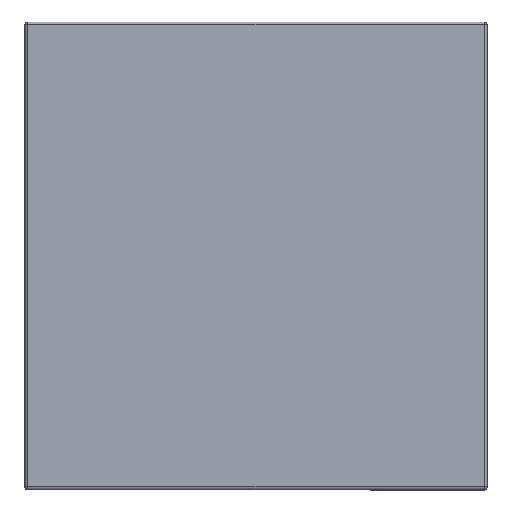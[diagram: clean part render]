
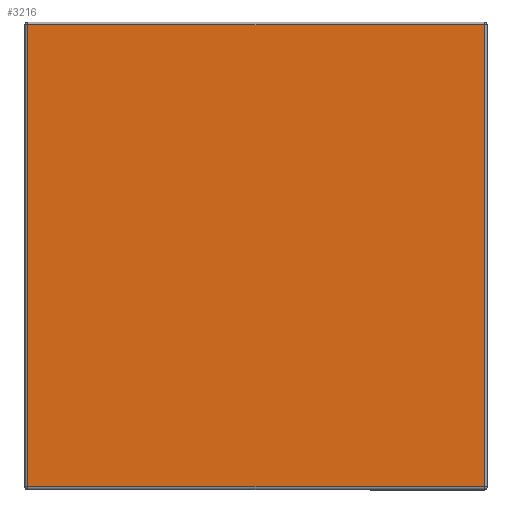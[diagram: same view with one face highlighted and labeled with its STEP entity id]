
A CAD part, top view. The second image highlights one B-rep face of the part: STEP entity #3216.
In plain terms, the highlighted planar face has unit normal (0, 0, 1).
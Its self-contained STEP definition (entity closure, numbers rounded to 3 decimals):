
#13 = CARTESIAN_POINT ( 'NONE',  ( 2262.642, -656.606, 0. ) ) ;
#104 = LINE ( 'NONE', #2588, #4688 ) ;
#166 = DIRECTION ( 'NONE',  ( -1., 0., 0. ) ) ;
#217 = CARTESIAN_POINT ( 'NONE',  ( 2262.642, -615.106, 0. ) ) ;
#590 = ORIENTED_EDGE ( 'NONE', *, *, #1232, .F. ) ;
#660 = VERTEX_POINT ( 'NONE', #217 ) ;
#692 = FACE_OUTER_BOUND ( 'NONE', #2249, .T. ) ;
#879 = LINE ( 'NONE', #1417, #5667 ) ;
#900 = VERTEX_POINT ( 'NONE', #13 ) ;
#1232 = EDGE_CURVE ( 'NONE', #900, #660, #104, .T. ) ;
#1294 = EDGE_CURVE ( 'NONE', #2108, #900, #879, .T. ) ;
#1417 = CARTESIAN_POINT ( 'NONE',  ( 2283.142, -656.606, 0. ) ) ;
#1509 = LINE ( 'NONE', #4512, #2203 ) ;
#1547 = CARTESIAN_POINT ( 'NONE',  ( 2303.642, -615.106, 0. ) ) ;
#1737 = CARTESIAN_POINT ( 'NONE',  ( 2303.642, -656.606, 0. ) ) ;
#2068 = ORIENTED_EDGE ( 'NONE', *, *, #1294, .F. ) ;
#2108 = VERTEX_POINT ( 'NONE', #1737 ) ;
#2203 = VECTOR ( 'NONE', #5697, 1000. ) ;
#2249 = EDGE_LOOP ( 'NONE', ( #3272, #5399, #590, #2068 ) ) ;
#2291 = VECTOR ( 'NONE', #2913, 1000. ) ;
#2326 = PLANE ( 'NONE',  #7082 ) ;
#2526 = DIRECTION ( 'NONE',  ( -1., 0., 0. ) ) ;
#2588 = CARTESIAN_POINT ( 'NONE',  ( 2262.642, -635.856, 0. ) ) ;
#2886 = CARTESIAN_POINT ( 'NONE',  ( 2283.142, -615.106, 0. ) ) ;
#2913 = DIRECTION ( 'NONE',  ( 1., 0., 0. ) ) ;
#3060 = DIRECTION ( 'NONE',  ( 0., 1., 0. ) ) ;
#3216 = ADVANCED_FACE ( 'NONE', ( #692 ), #2326, .F. ) ;
#3272 = ORIENTED_EDGE ( 'NONE', *, *, #5232, .F. ) ;
#4512 = CARTESIAN_POINT ( 'NONE',  ( 2303.642, -635.856, 0. ) ) ;
#4688 = VECTOR ( 'NONE', #3060, 1000. ) ;
#5232 = EDGE_CURVE ( 'NONE', #5356, #2108, #1509, .T. ) ;
#5356 = VERTEX_POINT ( 'NONE', #1547 ) ;
#5399 = ORIENTED_EDGE ( 'NONE', *, *, #5681, .F. ) ;
#5667 = VECTOR ( 'NONE', #2526, 1000. ) ;
#5681 = EDGE_CURVE ( 'NONE', #660, #5356, #6654, .T. ) ;
#5697 = DIRECTION ( 'NONE',  ( 0., -1., 0. ) ) ;
#6180 = CARTESIAN_POINT ( 'NONE',  ( 2283.142, -635.856, 0. ) ) ;
#6654 = LINE ( 'NONE', #2886, #2291 ) ;
#6719 = DIRECTION ( 'NONE',  ( 0., 0., -1. ) ) ;
#7082 = AXIS2_PLACEMENT_3D ( 'NONE', #6180, #6719, #166 ) ;
